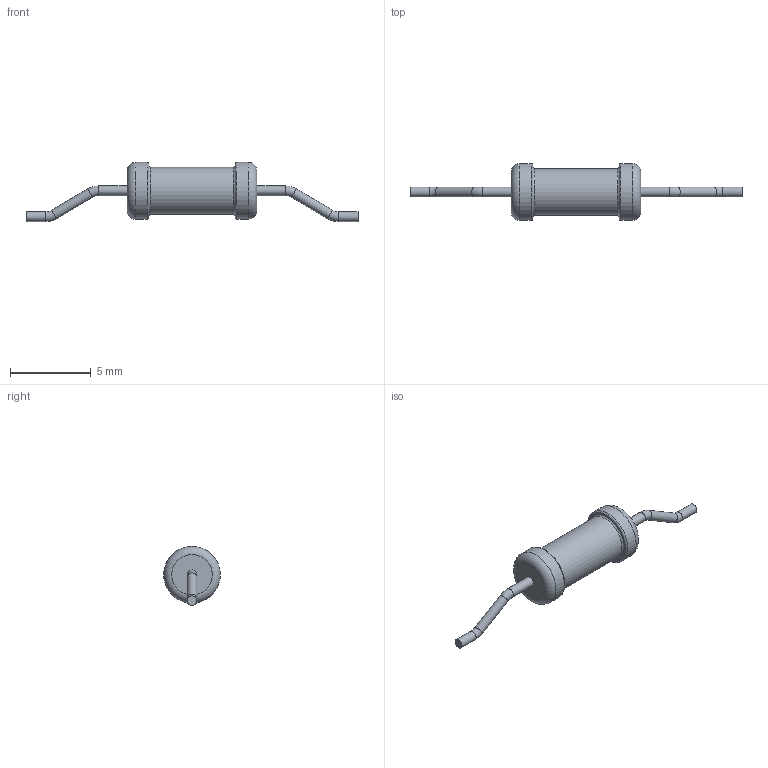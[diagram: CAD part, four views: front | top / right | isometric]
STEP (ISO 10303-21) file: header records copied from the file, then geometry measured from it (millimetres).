
FILE_DESCRIPTION(('STEP AP203'), '1');
FILE_NAME('ﾑ2-29ﾂﾌ-0,25(3)', '', ('UNSPECIFIED'), ('UNSPECIFIED'), 'ASCON STEP Converter 1.6', 'ASCON Math Kernel', '');
FILE_SCHEMA(('CONFIG_CONTROL_DESIGN'));
Length unit declared in the file: millimetre
Bounding box: 20.5 x 3.5 x 3.65 mm (x, y, z)
Volume: 63.4 mm3; surface area: 121.6 mm2
Topology: 1 solids, 1 shells, 25 faces, 43 edges, 24 vertices
Faces by surface type: torus 10, cylinder 9, plane 6
Full cylindrical faces by diameter (mm): 0.6 x6, 2.893 x1, 3.5 x2
Entity records: 738 total; most frequent: DIRECTION 100, CARTESIAN_POINT 74, AXIS2_PLACEMENT_3D 50, EDGE_LOOP 48, ORIENTED_EDGE 48, FACE_OUTER_BOUND 38, COLOUR_RGB 26, FILL_AREA_STYLE_COLOUR 26
